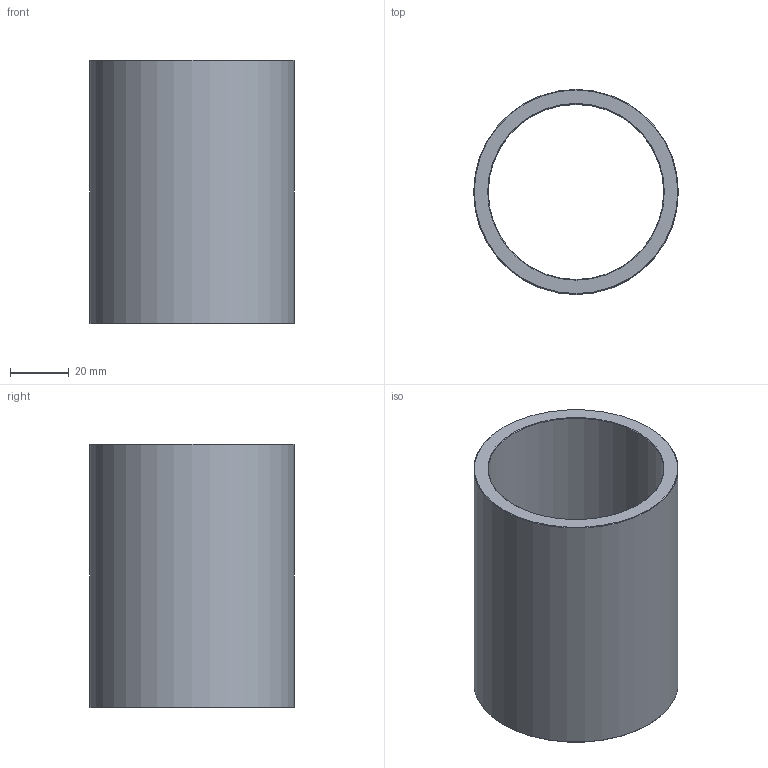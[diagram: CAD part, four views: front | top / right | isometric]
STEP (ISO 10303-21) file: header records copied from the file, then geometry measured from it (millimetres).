
FILE_DESCRIPTION(('STEP AP203'),'1');
FILE_NAME('C:/Users/Rodrigo/Desktop/GA5.060.090-1.step','2016-11-08T12:42:19',(' '),(' '),'Spatial InterOp 3D',' ',' ');
FILE_SCHEMA(('CONFIG_CONTROL_DESIGN'));
Length unit declared in the file: millimetre
Products named in the file (1): 1
Bounding box: 70 x 70 x 90 mm (x, y, z)
Volume: 91875.2 mm3; surface area: 38703 mm2
Topology: 1 solids, 1 shells, 8 faces, 14 edges, 8 vertices
Faces by surface type: cone 4, cylinder 2, plane 2
Full cylindrical faces by diameter (mm): 60 x1, 70 x1
Entity records: 212 total; most frequent: DIRECTION 34, CARTESIAN_POINT 25, AXIS2_PLACEMENT_3D 17, EDGE_LOOP 16, ORIENTED_EDGE 16, FACE_OUTER_BOUND 10, ADVANCED_FACE 8, EDGE_CURVE 8
